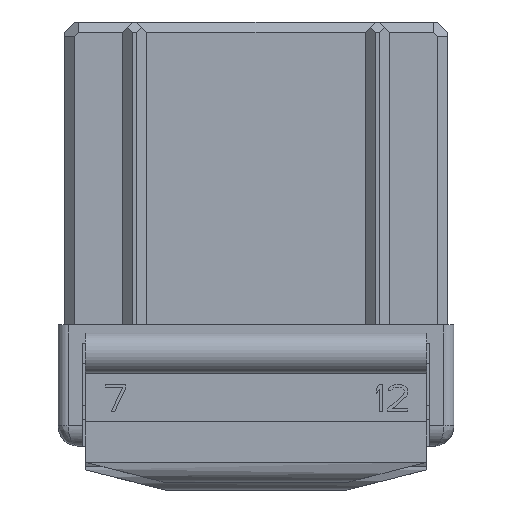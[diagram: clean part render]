
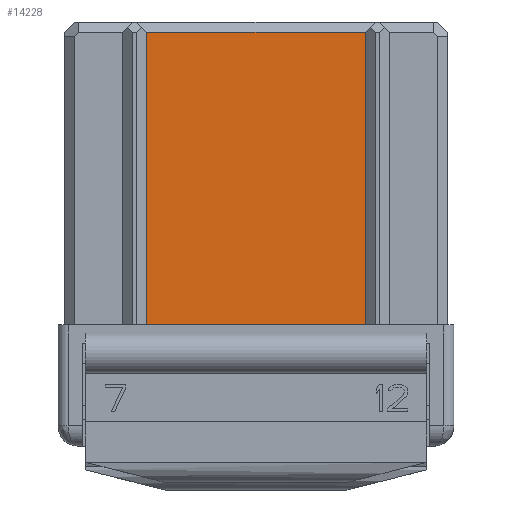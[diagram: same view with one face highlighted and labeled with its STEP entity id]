
A CAD part, left-side view. The second image highlights one B-rep face of the part: STEP entity #14228.
In plain terms, the highlighted planar face has unit normal (-1, 0, 0).
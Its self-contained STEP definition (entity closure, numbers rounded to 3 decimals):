
#2872=DIRECTION('',(0.,0.,-1.));
#2873=VECTOR('',#2872,14.5);
#2874=CARTESIAN_POINT('',(-5.8,-5.4,-0.5));
#2875=LINE('',#2874,#2873);
#2888=DIRECTION('',(0.,-1.,0.));
#2889=VECTOR('',#2888,10.8);
#2890=CARTESIAN_POINT('',(-5.8,5.4,-0.5));
#2891=LINE('',#2890,#2889);
#2892=DIRECTION('',(0.,-1.,0.));
#2893=VECTOR('',#2892,10.8);
#2894=CARTESIAN_POINT('',(-5.8,5.4,-15.));
#2895=LINE('',#2894,#2893);
#2896=DIRECTION('',(0.,0.,-1.));
#2897=VECTOR('',#2896,14.5);
#2898=CARTESIAN_POINT('',(-5.8,5.4,-0.5));
#2899=LINE('',#2898,#2897);
#7616=CARTESIAN_POINT('',(-5.8,5.4,-15.));
#7617=CARTESIAN_POINT('',(-5.8,-5.4,-15.));
#7618=VERTEX_POINT('',#7616);
#7619=VERTEX_POINT('',#7617);
#8996=CARTESIAN_POINT('',(-5.8,5.4,-0.5));
#8997=CARTESIAN_POINT('',(-5.8,-5.4,-0.5));
#8998=VERTEX_POINT('',#8996);
#8999=VERTEX_POINT('',#8997);
#14215=CARTESIAN_POINT('',(-5.8,5.4,0.));
#14216=DIRECTION('',(-1.,0.,0.));
#14217=DIRECTION('',(0.,-1.,0.));
#14218=AXIS2_PLACEMENT_3D('',#14215,#14216,#14217);
#14219=PLANE('',#14218);
#14221=ORIENTED_EDGE('',*,*,#14220,.T.);
#14222=ORIENTED_EDGE('',*,*,#14207,.T.);
#14223=ORIENTED_EDGE('',*,*,#13641,.F.);
#14225=ORIENTED_EDGE('',*,*,#14224,.F.);
#14226=EDGE_LOOP('',(#14221,#14222,#14223,#14225));
#14227=FACE_OUTER_BOUND('',#14226,.F.);
#14228=ADVANCED_FACE('',(#14227),#14219,.T.);
#13641=EDGE_CURVE('',#7618,#7619,#2895,.T.);
#14207=EDGE_CURVE('',#8999,#7619,#2875,.T.);
#14220=EDGE_CURVE('',#8998,#8999,#2891,.T.);
#14224=EDGE_CURVE('',#8998,#7618,#2899,.T.);
